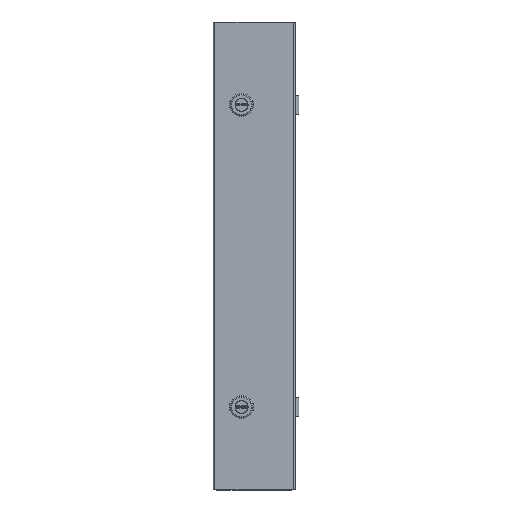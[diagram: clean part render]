
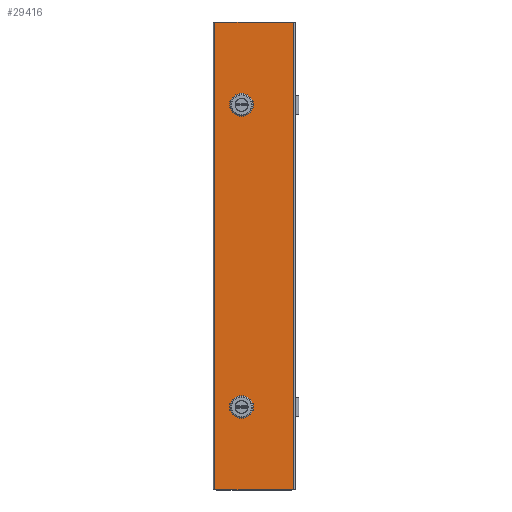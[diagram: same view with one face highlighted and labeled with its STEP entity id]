
A CAD part, top view. The second image highlights one B-rep face of the part: STEP entity #29416.
In plain terms, the highlighted planar face has unit normal (0, 0, 1).
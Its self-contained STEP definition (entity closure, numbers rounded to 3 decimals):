
#1606=FACE_BOUND('',#4245,.T.);
#1607=FACE_BOUND('',#4246,.T.);
#2384=FACE_OUTER_BOUND('',#4244,.T.);
#4244=EDGE_LOOP('',(#20652,#20653,#20654,#20655));
#4245=EDGE_LOOP('',(#20656,#20657,#20658,#20659,#20660,#20661,#20662,#20663,
#20664,#20665));
#4246=EDGE_LOOP('',(#20666,#20667,#20668,#20669,#20670,#20671,#20672,#20673,
#20674,#20675));
#6245=LINE('',#42729,#8761);
#6250=LINE('',#42743,#8766);
#6255=LINE('',#42752,#8771);
#6271=LINE('',#42803,#8787);
#6274=LINE('',#42810,#8790);
#6276=LINE('',#42816,#8792);
#6278=LINE('',#42825,#8794);
#6282=LINE('',#42834,#8798);
#6285=LINE('',#42839,#8801);
#6288=LINE('',#42848,#8804);
#6291=LINE('',#42855,#8807);
#6293=LINE('',#42861,#8809);
#6342=LINE('',#42979,#8858);
#6347=LINE('',#42997,#8863);
#6352=LINE('',#43011,#8868);
#6353=LINE('',#43013,#8869);
#8761=VECTOR('',#34835,0.394);
#8766=VECTOR('',#34848,0.394);
#8771=VECTOR('',#34855,0.394);
#8787=VECTOR('',#34895,0.394);
#8790=VECTOR('',#34904,0.394);
#8792=VECTOR('',#34912,0.394);
#8794=VECTOR('',#34922,0.394);
#8798=VECTOR('',#34932,0.394);
#8801=VECTOR('',#34937,0.394);
#8804=VECTOR('',#34946,0.394);
#8807=VECTOR('',#34955,0.394);
#8809=VECTOR('',#34963,0.394);
#8858=VECTOR('',#35068,0.394);
#8863=VECTOR('',#35093,0.394);
#8868=VECTOR('',#35116,0.394);
#8869=VECTOR('',#35119,0.394);
#11056=CIRCLE('',#31493,0.492);
#11066=CIRCLE('',#31507,0.443);
#11067=CIRCLE('',#31510,0.443);
#11068=CIRCLE('',#31513,0.443);
#11070=CIRCLE('',#31520,0.492);
#11071=CIRCLE('',#31524,0.443);
#11072=CIRCLE('',#31527,0.443);
#11073=CIRCLE('',#31530,0.443);
#12402=VERTEX_POINT('',#42727);
#12403=VERTEX_POINT('',#42728);
#12406=VERTEX_POINT('',#42736);
#12408=VERTEX_POINT('',#42742);
#12411=VERTEX_POINT('',#42750);
#12432=VERTEX_POINT('',#42796);
#12433=VERTEX_POINT('',#42798);
#12434=VERTEX_POINT('',#42802);
#12435=VERTEX_POINT('',#42808);
#12436=VERTEX_POINT('',#42812);
#12438=VERTEX_POINT('',#42823);
#12439=VERTEX_POINT('',#42824);
#12440=VERTEX_POINT('',#42829);
#12441=VERTEX_POINT('',#42833);
#12442=VERTEX_POINT('',#42837);
#12443=VERTEX_POINT('',#42841);
#12444=VERTEX_POINT('',#42842);
#12445=VERTEX_POINT('',#42847);
#12446=VERTEX_POINT('',#42851);
#12447=VERTEX_POINT('',#42857);
#12487=VERTEX_POINT('',#42976);
#12488=VERTEX_POINT('',#42978);
#12490=VERTEX_POINT('',#42994);
#12491=VERTEX_POINT('',#42996);
#15370=EDGE_CURVE('',#12402,#12403,#6245,.T.);
#15374=EDGE_CURVE('',#12406,#12402,#11056,.T.);
#15377=EDGE_CURVE('',#12408,#12406,#6250,.T.);
#15382=EDGE_CURVE('',#12403,#12411,#6255,.T.);
#15405=EDGE_CURVE('',#12433,#12432,#11066,.T.);
#15407=EDGE_CURVE('',#12434,#12433,#6271,.T.);
#15409=EDGE_CURVE('',#12411,#12434,#11067,.T.);
#15411=EDGE_CURVE('',#12432,#12435,#6274,.T.);
#15413=EDGE_CURVE('',#12435,#12436,#11068,.T.);
#15414=EDGE_CURVE('',#12436,#12408,#6276,.T.);
#15417=EDGE_CURVE('',#12438,#12439,#6278,.T.);
#15420=EDGE_CURVE('',#12440,#12438,#11070,.T.);
#15422=EDGE_CURVE('',#12441,#12440,#6282,.T.);
#15425=EDGE_CURVE('',#12439,#12442,#6285,.T.);
#15426=EDGE_CURVE('',#12443,#12444,#11071,.T.);
#15429=EDGE_CURVE('',#12444,#12445,#6288,.T.);
#15431=EDGE_CURVE('',#12445,#12446,#11072,.T.);
#15433=EDGE_CURVE('',#12446,#12441,#6291,.T.);
#15434=EDGE_CURVE('',#12442,#12447,#11073,.T.);
#15436=EDGE_CURVE('',#12447,#12443,#6293,.T.);
#15494=EDGE_CURVE('',#12488,#12487,#6342,.T.);
#15503=EDGE_CURVE('',#12491,#12490,#6347,.T.);
#15511=EDGE_CURVE('',#12488,#12490,#6352,.T.);
#15512=EDGE_CURVE('',#12491,#12487,#6353,.T.);
#20652=ORIENTED_EDGE('',*,*,#15494,.T.);
#20653=ORIENTED_EDGE('',*,*,#15512,.F.);
#20654=ORIENTED_EDGE('',*,*,#15503,.T.);
#20655=ORIENTED_EDGE('',*,*,#15511,.F.);
#20656=ORIENTED_EDGE('',*,*,#15370,.T.);
#20657=ORIENTED_EDGE('',*,*,#15382,.T.);
#20658=ORIENTED_EDGE('',*,*,#15409,.T.);
#20659=ORIENTED_EDGE('',*,*,#15407,.T.);
#20660=ORIENTED_EDGE('',*,*,#15405,.T.);
#20661=ORIENTED_EDGE('',*,*,#15411,.T.);
#20662=ORIENTED_EDGE('',*,*,#15413,.T.);
#20663=ORIENTED_EDGE('',*,*,#15414,.T.);
#20664=ORIENTED_EDGE('',*,*,#15377,.T.);
#20665=ORIENTED_EDGE('',*,*,#15374,.T.);
#20666=ORIENTED_EDGE('',*,*,#15417,.T.);
#20667=ORIENTED_EDGE('',*,*,#15425,.T.);
#20668=ORIENTED_EDGE('',*,*,#15434,.T.);
#20669=ORIENTED_EDGE('',*,*,#15436,.T.);
#20670=ORIENTED_EDGE('',*,*,#15426,.T.);
#20671=ORIENTED_EDGE('',*,*,#15429,.T.);
#20672=ORIENTED_EDGE('',*,*,#15431,.T.);
#20673=ORIENTED_EDGE('',*,*,#15433,.T.);
#20674=ORIENTED_EDGE('',*,*,#15422,.T.);
#20675=ORIENTED_EDGE('',*,*,#15420,.T.);
#28626=PLANE('',#31579);
#29416=ADVANCED_FACE('',(#2384,#1606,#1607),#28626,.T.);
#31493=AXIS2_PLACEMENT_3D('',#42737,#34841,#34842);
#31507=AXIS2_PLACEMENT_3D('',#42799,#34890,#34891);
#31510=AXIS2_PLACEMENT_3D('',#42806,#34899,#34900);
#31513=AXIS2_PLACEMENT_3D('',#42814,#34908,#34909);
#31520=AXIS2_PLACEMENT_3D('',#42830,#34927,#34928);
#31524=AXIS2_PLACEMENT_3D('',#42843,#34940,#34941);
#31527=AXIS2_PLACEMENT_3D('',#42852,#34950,#34951);
#31530=AXIS2_PLACEMENT_3D('',#42858,#34958,#34959);
#31579=AXIS2_PLACEMENT_3D('',#43012,#35117,#35118);
#34835=DIRECTION('',(0.,1.,0.));
#34841=DIRECTION('center_axis',(0.,0.,-1.));
#34842=DIRECTION('ref_axis',(-1.,0.,0.));
#34848=DIRECTION('',(1.,0.,0.));
#34855=DIRECTION('',(-1.,0.,0.));
#34890=DIRECTION('center_axis',(0.,0.,-1.));
#34891=DIRECTION('ref_axis',(-1.,0.,0.));
#34895=DIRECTION('',(0.,1.,0.));
#34899=DIRECTION('center_axis',(0.,0.,-1.));
#34900=DIRECTION('ref_axis',(-1.,0.,0.));
#34904=DIRECTION('',(1.,0.,0.));
#34908=DIRECTION('center_axis',(0.,0.,-1.));
#34909=DIRECTION('ref_axis',(-1.,0.,0.));
#34912=DIRECTION('',(0.,-1.,0.));
#34922=DIRECTION('',(0.,1.,0.));
#34927=DIRECTION('center_axis',(0.,0.,-1.));
#34928=DIRECTION('ref_axis',(-1.,0.,0.));
#34932=DIRECTION('',(1.,0.,0.));
#34937=DIRECTION('',(-1.,0.,0.));
#34940=DIRECTION('center_axis',(0.,0.,-1.));
#34941=DIRECTION('ref_axis',(-1.,0.,0.));
#34946=DIRECTION('',(1.,0.,0.));
#34950=DIRECTION('center_axis',(0.,0.,-1.));
#34951=DIRECTION('ref_axis',(-1.,0.,0.));
#34955=DIRECTION('',(0.,-1.,0.));
#34958=DIRECTION('center_axis',(0.,0.,-1.));
#34959=DIRECTION('ref_axis',(-1.,0.,0.));
#34963=DIRECTION('',(0.,1.,0.));
#35068=DIRECTION('',(0.,-1.,0.));
#35093=DIRECTION('',(0.,1.,0.));
#35116=DIRECTION('',(1.,0.,0.));
#35117=DIRECTION('center_axis',(0.,0.,1.));
#35118=DIRECTION('ref_axis',(1.,0.,0.));
#35119=DIRECTION('',(-1.,0.,0.));
#42727=CARTESIAN_POINT('',(-0.729,-8.236,0.055));
#42728=CARTESIAN_POINT('',(-0.729,-8.146,0.055));
#42729=CARTESIAN_POINT('',(-0.729,-4.118,0.055));
#42736=CARTESIAN_POINT('',(-0.164,-7.671,0.055));
#42737=CARTESIAN_POINT('Origin',(-0.65,-7.75,0.055));
#42742=CARTESIAN_POINT('',(-0.254,-7.671,0.055));
#42743=CARTESIAN_POINT('',(-0.364,-7.671,0.055));
#42750=CARTESIAN_POINT('',(-0.849,-8.146,0.055));
#42752=CARTESIAN_POINT('',(-0.225,-8.146,0.055));
#42796=CARTESIAN_POINT('',(-0.849,-7.354,0.055));
#42798=CARTESIAN_POINT('',(-1.046,-7.551,0.055));
#42799=CARTESIAN_POINT('Origin',(-0.65,-7.75,0.055));
#42802=CARTESIAN_POINT('',(-1.046,-7.949,0.055));
#42803=CARTESIAN_POINT('',(-1.046,-3.975,0.055));
#42806=CARTESIAN_POINT('Origin',(-0.65,-7.75,0.055));
#42808=CARTESIAN_POINT('',(-0.451,-7.354,0.055));
#42810=CARTESIAN_POINT('',(-0.425,-7.354,0.055));
#42812=CARTESIAN_POINT('',(-0.254,-7.551,0.055));
#42814=CARTESIAN_POINT('Origin',(-0.65,-7.75,0.055));
#42816=CARTESIAN_POINT('',(-0.254,-3.775,0.055));
#42823=CARTESIAN_POINT('',(-0.729,7.264,0.055));
#42824=CARTESIAN_POINT('',(-0.729,7.354,0.055));
#42825=CARTESIAN_POINT('',(-0.729,3.632,0.055));
#42829=CARTESIAN_POINT('',(-0.164,7.829,0.055));
#42830=CARTESIAN_POINT('Origin',(-0.65,7.75,0.055));
#42833=CARTESIAN_POINT('',(-0.254,7.829,0.055));
#42834=CARTESIAN_POINT('',(-0.364,7.829,0.055));
#42837=CARTESIAN_POINT('',(-0.849,7.354,0.055));
#42839=CARTESIAN_POINT('',(-0.225,7.354,0.055));
#42841=CARTESIAN_POINT('',(-1.046,7.949,0.055));
#42842=CARTESIAN_POINT('',(-0.849,8.146,0.055));
#42843=CARTESIAN_POINT('Origin',(-0.65,7.75,0.055));
#42847=CARTESIAN_POINT('',(-0.451,8.146,0.055));
#42848=CARTESIAN_POINT('',(-0.425,8.146,0.055));
#42851=CARTESIAN_POINT('',(-0.254,7.949,0.055));
#42852=CARTESIAN_POINT('Origin',(-0.65,7.75,0.055));
#42855=CARTESIAN_POINT('',(-0.254,3.975,0.055));
#42857=CARTESIAN_POINT('',(-1.046,7.551,0.055));
#42858=CARTESIAN_POINT('Origin',(-0.65,7.75,0.055));
#42861=CARTESIAN_POINT('',(-1.046,3.775,0.055));
#42976=CARTESIAN_POINT('',(-2.024,-12.,0.055));
#42978=CARTESIAN_POINT('',(-2.024,12.,0.055));
#42979=CARTESIAN_POINT('',(-2.024,6.,0.055));
#42994=CARTESIAN_POINT('',(2.024,12.,0.055));
#42996=CARTESIAN_POINT('',(2.024,-12.,0.055));
#42997=CARTESIAN_POINT('',(2.024,-6.,0.055));
#43011=CARTESIAN_POINT('',(2.11,12.,0.055));
#43012=CARTESIAN_POINT('Origin',(0.,0.,0.055));
#43013=CARTESIAN_POINT('',(-2.11,-12.,0.055));
